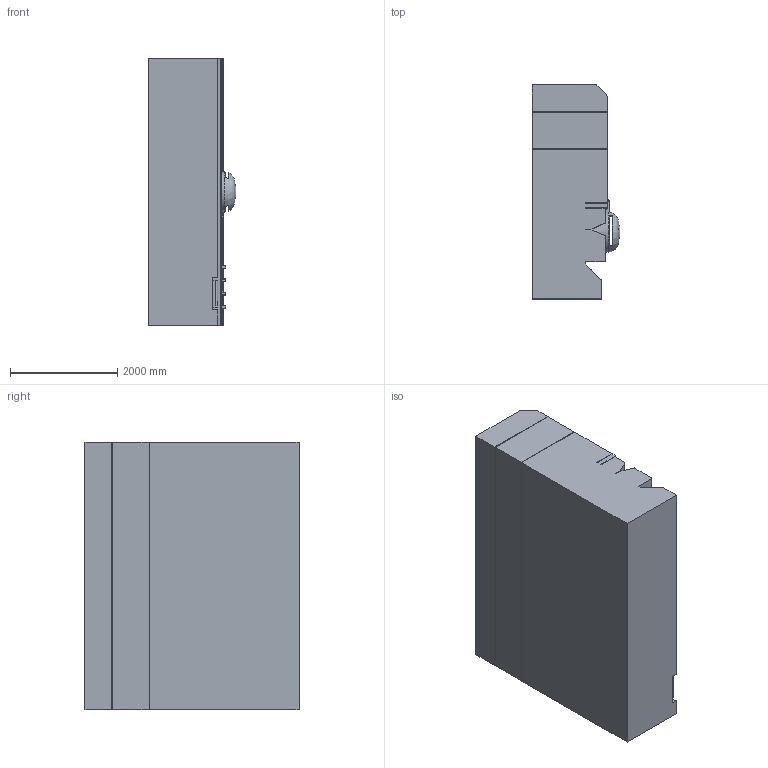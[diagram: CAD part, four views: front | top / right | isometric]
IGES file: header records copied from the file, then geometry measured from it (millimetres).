
Global section: file name: Wall4; native system: unknown; preprocessor: unknown; author: unknown; organization: unknown; date: 20220707.143937; units: centimetre
Bounding box: 1640 x 4000 x 5000 mm (x, y, z)
Volume: 26312406817 mm3; surface area: 110132176.8 mm2
Topology: 3 solids, 3 shells, 1329 faces, 3248 edges, 1852 vertices
Faces by surface type: bspline 1329
